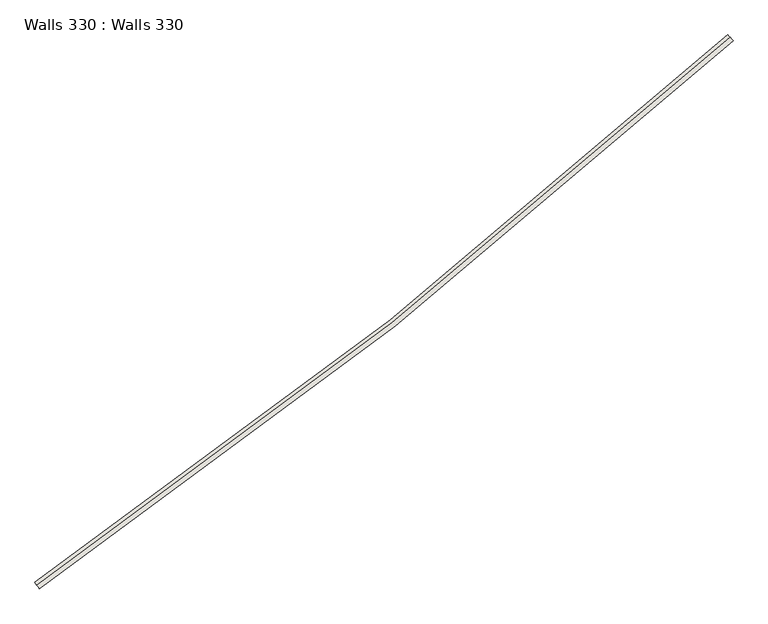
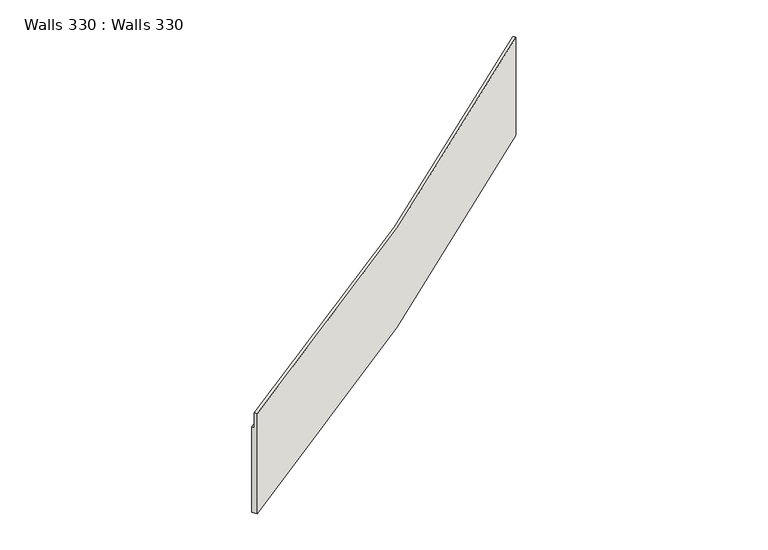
"""IFC4 building model written with IfcOpenShell, lengths in millimetres: wall geometry, Walls 330 : Walls 330."""

from ifc_helpers import new_model, si_unit, frame, origin, place, context, project, spatial, source, transform, mapped, element, save
from ifc_brep_helpers import plane_surface, spline_curve, spline_surface, advanced_brep


def walls_330_walls_330_de1e930e(model_context):
    return source(origin(), model_context, "Body", "AdvancedBrep", [
        advanced_brep(
        [(-280002.9075631, -397263.9418885, 634496.0), (-280002.9075631, -397263.9418885, 641380.0), (-280116.3765063, -397099.2131605, 641380.0), (-280116.3765063, -397099.2131605, 640380.0), (-280201.6874208, -396975.3628977, 640380.0), (-280201.6540418, -396975.4113558, 634496.0), (-249003.3598889, -372749.7268084, 634835.0), (-249238.0699887, -372490.0901989, 634835.0), (-249238.0699887, -372490.0901989, 640604.0), (-249137.4799459, -372601.3630315, 640604.0), (-249137.4799459, -372601.3630315, 641604.0), (-249003.3598889, -372749.7268084, 641604.0)],
        [
            (0, 1),
            (1, 2),
            (2, 3),
            (3, 4),
            (4, 5),
            (5, 0),
            (6, 7),
            (7, 8),
            (8, 9),
            (9, 10),
            (10, 11),
            (11, 6),
            (11, 1, spline_curve(3, [(-249003.3598889, -372749.7268084, 641604.0), (-253893.151938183, -377170.072545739, 641566.666667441), (-258928.682303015, -381429.200825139, 641529.333332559), (-269269.349893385, -389606.524962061, 641454.666667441), (-274574.487120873, -393524.720815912, 641417.333332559), (-280002.9075631, -397263.9418885, 641380.0)], [4, 2, 4], [0.0, 64.86801425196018, 129.73602850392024])),
            (0, 6, spline_curve(3, [(-280002.9075631, -397263.9418885, 634496.0), (-274574.487120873, -393524.720815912, 634552.49999933), (-269269.349893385, -389606.524962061, 634609.00000067), (-258928.682303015, -381429.200825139, 634721.99999933), (-253893.151938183, -377170.072545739, 634778.50000067), (-249003.3598889, -372749.7268084, 634835.0)], [4, 2, 4], [0.0, 64.86801425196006, 129.73602850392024])),
            (10, 2, spline_curve(3, [(-249137.4799459, -372601.3630315, 641604.0), (-254024.015140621, -377018.758547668, 641566.666667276), (-259056.191269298, -381275.043886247, 641529.333332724), (-269389.970176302, -389446.909077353, 641454.666667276), (-274691.572955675, -393362.488928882, 641417.333332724), (-280116.3765063, -397099.2131605, 641380.0)], [4, 2, 4], [0.0, 64.84578812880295, 129.6915762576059])),
            (9, 3, spline_curve(3, [(-249137.4799459, -372601.3630315, 640604.0), (-254024.015139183, -377018.758547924, 640566.666665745), (-259056.19126935, -381275.04388715, 640529.333334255), (-269389.97017625, -389446.90907645, 640454.666665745), (-274691.572954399, -393362.488927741, 640417.333334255), (-280116.3765063, -397099.2131605, 640380.0)], [4, 2, 4], [0.0, 64.82416489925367, 129.64832979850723])),
            (8, 4, spline_curve(3, [(-249238.0699887, -372490.0901989, 640604.0), (-254122.203759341, -376905.22745305, 640566.66666749), (-259151.902424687, -381159.332269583, 640529.33333251), (-269480.584715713, -389327.001799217, 640454.66666749), (-274779.568343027, -393240.566510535, 640417.33333251), (-280201.6874208, -396975.3628977, 640380.0)], [4, 2, 4], [0.0, 64.80792754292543, 129.61585508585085])),
            (7, 5, spline_curve(3, [(-249238.0699887, -372490.0901989, 634835.0), (-254122.19718174, -376905.234727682, 634778.500000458), (-259151.889751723, -381159.34725297, 634721.999999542), (-269480.560890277, -389327.03297003, 634609.000000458), (-274779.539463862, -393240.606158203, 634552.499999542), (-280201.6540418, -396975.4113558, 634496.0)], [4, 2, 4], [0.0, 64.79229696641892, 129.58459393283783])),
        ],
        [
            plane_surface(frame((-280106.9849336, -397112.8473919, 638752.0), z_axis=(-0.8235329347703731, -0.5672684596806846, 0.0), x_axis=(0.5672684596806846, -0.8235329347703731, 0.0))),
            plane_surface(frame((-249126.3032745, -372613.7266796, 639014.3333333), z_axis=(0.7418188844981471, 0.6706002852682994, 0.0), x_axis=(0.0, 0.0, 1.0))),
            spline_surface(3, 3, [[(-249003.3598889, -372749.7268084, 634835.0), (-253893.151939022, -377170.072545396, 634778.5), (-258928.68230287, -381429.200825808, 634722.0), (-269269.34989353, -389606.524961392, 634609.0), (-274574.487120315, -393524.720816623, 634552.5), (-280002.9075631, -397263.9418885, 634496.0)], [(-249003.3598889, -372749.7268084, 635963.166666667), (-253893.151939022, -377170.072545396, 635909.861111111), (-258928.68230287, -381429.200825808, 635856.555555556), (-269269.34989353, -389606.524961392, 635749.944444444), (-274574.487120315, -393524.720816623, 635696.638888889), (-280002.9075631, -397263.9418885, 635643.333333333)], [(-249003.3598889, -372749.7268084, 637091.333333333), (-253893.151939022, -377170.072545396, 637041.222222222), (-258928.68230287, -381429.200825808, 636991.111111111), (-269269.34989353, -389606.524961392, 636890.888888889), (-274574.487120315, -393524.720816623, 636840.777777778), (-280002.9075631, -397263.9418885, 636790.666666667)], [(-249003.3598889, -372749.7268084, 639347.666666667), (-253893.151939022, -377170.072545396, 639303.944444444), (-258928.68230287, -381429.200825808, 639260.222222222), (-269269.34989353, -389606.524961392, 639172.777777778), (-274574.487120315, -393524.720816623, 639129.055555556), (-280002.9075631, -397263.9418885, 639085.333333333)], [(-249003.3598889, -372749.7268084, 640475.833333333), (-253893.151939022, -377170.072545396, 640435.305555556), (-258928.68230287, -381429.200825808, 640394.777777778), (-269269.34989353, -389606.524961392, 640313.722222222), (-274574.487120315, -393524.720816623, 640273.194444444), (-280002.9075631, -397263.9418885, 640232.666666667)], [(-249003.3598889, -372749.7268084, 641604.0), (-253893.151939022, -377170.072545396, 641566.666666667), (-258928.68230287, -381429.200825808, 641529.333333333), (-269269.34989353, -389606.524961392, 641454.666666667), (-274574.487120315, -393524.720816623, 641417.333333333), (-280002.9075631, -397263.9418885, 641380.0)]], [4, 2, 4], [4, 2, 4], [0.0, 11.198326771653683, 22.396653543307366], [0.0, 64.86801425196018, 129.73602850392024]),
            spline_surface(3, 3, [[(-249003.3598889, -372749.7268084, 641604.0), (-253893.151939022, -377170.072545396, 641566.666666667), (-258928.68230287, -381429.200825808, 641529.333333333), (-269269.34989353, -389606.524961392, 641454.666666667), (-274574.487120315, -393524.720816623, 641417.333333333), (-280002.9075631, -397263.9418885, 641380.0)], [(-249025.713231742, -372724.99951225, 641604.0), (-253914.962472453, -377144.853545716, 641566.666666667), (-258949.933797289, -381403.508002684, 641529.333333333), (-269289.453273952, -389579.922313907, 641454.666666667), (-274594.001426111, -393497.682168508, 641417.333333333), (-280021.819053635, -397236.487100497, 641380.0)], [(-249048.066574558, -372700.27221615, 641604.0), (-253936.773005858, -377119.634546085, 641566.666666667), (-258971.185291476, -381377.815179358, 641529.333333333), (-269309.556654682, -389553.319666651, 641454.666666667), (-274613.515731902, -393470.643520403, 641417.333333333), (-280040.730544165, -397209.032312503, 641380.0)], [(-249092.773260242, -372650.81762385, 641604.0), (-253980.39407272, -377069.196546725, 641566.666666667), (-259013.688280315, -381326.42953311, 641529.333333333), (-269349.763415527, -389500.114371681, 641454.666666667), (-274652.544343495, -393416.566224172, 641417.333333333), (-280078.553525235, -397154.122736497, 641380.0)], [(-249115.126603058, -372626.09032765, 641604.0), (-254002.204606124, -377043.977546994, 641566.666666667), (-259034.939774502, -381300.736709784, 641529.333333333), (-269369.866796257, -389473.511724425, 641454.666666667), (-274672.058649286, -393389.527576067, 641417.333333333), (-280097.465015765, -397126.667948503, 641380.0)], [(-249137.4799459, -372601.3630315, 641604.0), (-254024.015139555, -377018.758547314, 641566.666666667), (-259056.191268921, -381275.04388666, 641529.333333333), (-269389.970176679, -389446.90907694, 641454.666666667), (-274691.572955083, -393362.488927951, 641417.333333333), (-280116.3765063, -397099.2131605, 641380.0)]], [4, 2, 4], [4, 2, 4], [0.0, 0.32810604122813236, 0.6562120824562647], [0.0, 64.84578812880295, 129.6915762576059]),
            spline_surface(3, 3, [[(-249137.4799459, -372601.3630315, 641604.0), (-254024.015139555, -377018.758547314, 641566.666666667), (-259056.191268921, -381275.04388666, 641529.333333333), (-269389.970176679, -389446.90907694, 641454.666666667), (-274691.572955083, -393362.488927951, 641417.333333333), (-280116.3765063, -397099.2131605, 641380.0)], [(-249137.4799459, -372601.3630315, 641437.333333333), (-254024.015139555, -377018.758547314, 641400.0), (-259056.191268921, -381275.04388666, 641362.666666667), (-269389.970176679, -389446.90907694, 641288.0), (-274691.572955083, -393362.488927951, 641250.666666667), (-280116.3765063, -397099.2131605, 641213.333333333)], [(-249137.4799459, -372601.3630315, 641270.666666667), (-254024.015139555, -377018.758547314, 641233.333333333), (-259056.191268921, -381275.04388666, 641196.0), (-269389.970176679, -389446.90907694, 641121.333333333), (-274691.572955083, -393362.488927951, 641084.0), (-280116.3765063, -397099.2131605, 641046.666666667)], [(-249137.4799459, -372601.3630315, 640937.333333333), (-254024.015139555, -377018.758547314, 640900.0), (-259056.191268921, -381275.04388666, 640862.666666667), (-269389.970176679, -389446.90907694, 640788.0), (-274691.572955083, -393362.488927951, 640750.666666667), (-280116.3765063, -397099.2131605, 640713.333333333)], [(-249137.4799459, -372601.3630315, 640770.666666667), (-254024.015139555, -377018.758547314, 640733.333333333), (-259056.191268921, -381275.04388666, 640696.0), (-269389.970176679, -389446.90907694, 640621.333333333), (-274691.572955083, -393362.488927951, 640584.0), (-280116.3765063, -397099.2131605, 640546.666666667)], [(-249137.4799459, -372601.3630315, 640604.0), (-254024.015139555, -377018.758547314, 640566.666666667), (-259056.191268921, -381275.04388666, 640529.333333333), (-269389.970176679, -389446.90907694, 640454.666666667), (-274691.572955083, -393362.488927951, 640417.333333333), (-280116.3765063, -397099.2131605, 640380.0)]], [4, 2, 4], [4, 2, 4], [0.0, 1.6404199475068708, 3.2808398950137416], [0.0, 64.82416489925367, 129.64832979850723]),
            spline_surface(3, 3, [[(-249137.4799459, -372601.3630315, 640604.0), (-254024.015139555, -377018.758547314, 640566.666666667), (-259056.191268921, -381275.04388666, 640529.333333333), (-269389.970176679, -389446.90907694, 640454.666666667), (-274691.572955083, -393362.488927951, 640417.333333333), (-280116.3765063, -397099.2131605, 640380.0)], [(-249154.244953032, -372582.817559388, 640604.0), (-254040.379909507, -376999.836698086, 640566.666666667), (-259072.14312819, -381255.758617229, 640529.333333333), (-269405.072599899, -389426.924530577, 640454.666666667), (-274706.238853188, -393342.1685251, 640417.333333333), (-280130.594992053, -397078.571450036, 640380.0)], [(-249171.009960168, -372564.272087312, 640604.0), (-254056.744679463, -376980.914848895, 640566.666666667), (-259088.094987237, -381236.473347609, 640529.333333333), (-269420.175023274, -389406.939984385, 640454.666666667), (-274720.904751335, -393321.84812224, 640417.333333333), (-280144.813477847, -397057.929739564, 640380.0)], [(-249204.539974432, -372527.181143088, 640604.0), (-254089.474219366, -376943.071150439, 640566.666666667), (-259119.998705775, -381197.902808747, 640529.333333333), (-269450.379869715, -389366.970891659, 640454.666666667), (-274750.236547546, -393281.207316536, 640417.333333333), (-280173.250449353, -397016.646318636, 640380.0)], [(-249221.304981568, -372508.635671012, 640604.0), (-254105.838989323, -376924.149301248, 640566.666666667), (-259135.950564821, -381178.617539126, 640529.333333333), (-269465.482293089, -389346.986345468, 640454.666666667), (-274764.902445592, -393260.886913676, 640417.333333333), (-280187.468935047, -396996.004608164, 640380.0)], [(-249238.0699887, -372490.0901989, 640604.0), (-254122.203759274, -376905.22745202, 640566.666666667), (-259151.90242409, -381159.332269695, 640529.333333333), (-269480.58471631, -389327.001799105, 640454.666666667), (-274779.568343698, -393240.566510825, 640417.333333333), (-280201.6874208, -396975.3628977, 640380.0)]], [4, 2, 4], [4, 2, 4], [0.0, 0.24638202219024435, 0.4927640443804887], [0.0, 64.80792754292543, 129.61585508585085]),
            spline_surface(3, 3, [[(-249238.0699887, -372490.0901989, 640604.0), (-254122.203759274, -376905.22745202, 640566.666666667), (-259151.90242409, -381159.332269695, 640529.333333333), (-269480.58471631, -389327.001799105, 640454.666666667), (-274779.568343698, -393240.566510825, 640417.333333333), (-280201.6874208, -396975.3628977, 640380.0)], [(-249238.0699887, -372490.0901989, 639642.5), (-254122.202663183, -376905.228664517, 639601.972222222), (-259151.900311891, -381159.334766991, 639561.444444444), (-269480.580745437, -389327.006994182, 639480.388888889), (-274779.563530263, -393240.573118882, 639439.861111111), (-280201.681857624, -396975.37097405, 639399.333333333)], [(-249238.0699887, -372490.0901989, 638681.0), (-254122.201567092, -376905.229877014, 638637.277777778), (-259151.898199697, -381159.33726423, 638593.555555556), (-269480.576774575, -389327.012189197, 638506.111111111), (-274779.558716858, -393240.579726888, 638462.388888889), (-280201.676294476, -396975.37905035, 638418.666666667)], [(-249238.0699887, -372490.0901989, 636758.0), (-254122.199374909, -376905.232302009, 636707.888888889), (-259151.893975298, -381159.342258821, 636657.777777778), (-269480.56883283, -389327.022579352, 636557.555555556), (-274779.549089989, -393240.592943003, 636507.444444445), (-280201.665168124, -396975.39520305, 636457.333333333)], [(-249238.0699887, -372490.0901989, 635796.5), (-254122.198278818, -376905.233514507, 635743.194444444), (-259151.891863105, -381159.34475616, 635689.888888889), (-269480.564861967, -389327.027774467, 635583.277777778), (-274779.544276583, -393240.599551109, 635529.972222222), (-280201.659604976, -396975.40327945, 635476.666666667)], [(-249238.0699887, -372490.0901989, 634835.0), (-254122.197182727, -376905.234727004, 634778.5), (-259151.889750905, -381159.347253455, 634722.0), (-269480.560891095, -389327.032969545, 634609.0), (-274779.539463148, -393240.606159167, 634552.5), (-280201.6540418, -396975.4113558, 634496.0)]], [4, 2, 4], [4, 2, 4], [0.0, 9.557906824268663, 19.115813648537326], [0.0, 64.79229696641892, 129.58459393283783]),
            spline_surface(3, 3, [[(-249238.0699887, -372490.0901989, 634835.0), (-254122.197182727, -376905.234727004, 634778.5), (-259151.889750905, -381159.347253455, 634722.0), (-269480.560891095, -389327.032969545, 634609.0), (-274779.539463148, -393240.606159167, 634552.5), (-280201.6540418, -396975.4113558, 634496.0)], [(-249198.951638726, -372533.362967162, 634835.0), (-254084.022975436, -376949.374363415, 634778.5), (-259114.688509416, -381204.322848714, 634722.0), (-269445.359058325, -389373.614968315, 634609.0), (-274745.364072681, -393287.958602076, 634552.5), (-280168.529628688, -397023.499777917, 634496.0)], [(-249159.833288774, -372576.635735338, 634835.0), (-254045.848768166, -376993.513999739, 634778.5), (-259077.487268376, -381249.298444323, 634722.0), (-269410.157225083, -389420.196966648, 634609.0), (-274711.188682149, -393335.311044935, 634552.5), (-280135.405215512, -397071.588199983, 634496.0)], [(-249081.596588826, -372663.181271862, 634835.0), (-253969.500353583, -377081.793272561, 634778.5), (-259003.084785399, -381339.24963484, 634722.0), (-269339.753559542, -389513.360964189, 634609.0), (-274642.837901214, -393430.015930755, 634552.5), (-280069.156389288, -397167.765044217, 634496.0)], [(-249042.478238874, -372706.454040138, 634835.0), (-253931.326146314, -377125.932908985, 634778.5), (-258965.883544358, -381384.225230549, 634722.0), (-269304.551726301, -389559.942962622, 634609.0), (-274608.662510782, -393477.368373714, 634552.5), (-280036.031976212, -397215.853466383, 634496.0)], [(-249003.3598889, -372749.7268084, 634835.0), (-253893.151939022, -377170.072545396, 634778.5), (-258928.68230287, -381429.200825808, 634722.0), (-269269.34989353, -389606.524961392, 634609.0), (-274574.487120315, -393524.720816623, 634552.5), (-280002.9075631, -397263.9418885, 634496.0)]], [4, 2, 4], [4, 2, 4], [0.0, 0.5744398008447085, 1.148879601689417], [0.0, 64.83089767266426, 129.66179534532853]),
        ],
        [
            (0, [[1, 2, 3, 4, 5, 6]]),
            (1, [[7, 8, 9, 10, 11, 12]]),
            (2, [[-12, 13, -1, 14]]),
            (3, [[-11, 15, -2, -13]]),
            (4, [[-10, 16, -3, -15]]),
            (5, [[-9, 17, -4, -16]]),
            (6, [[-8, 18, -5, -17]]),
            (7, [[-7, -14, -6, -18]]),
        ],
    ),
    ])


if __name__ == "__main__":
    model = new_model("IFC4")
    model_context = context("Model", 3, world=origin())
    ifc_project = project(units=[si_unit("LENGTHUNIT", "METRE", prefix="MILLI")], contexts=[model_context])
    site = spatial("IfcSite", under=ifc_project)
    building = spatial("IfcBuilding", under=site)
    placement = place(None, origin())
    walls_330_walls_330_shape = walls_330_walls_330_de1e930e(model_context)
    element("IfcWall", 1, ObjectType="Walls 330 : Walls 330", at=placement, inside=building, context=model_context, shape_type="MappedRepresentation", body=[
        mapped(walls_330_walls_330_shape, transform((0.0, 0.0, 0.0), x_axis=(1.0, 0.0, 0.0), y_axis=(0.0, 1.0, 0.0), z_axis=(0.0, 0.0, 1.0))),
    ])
    save(model, "model.ifc")
